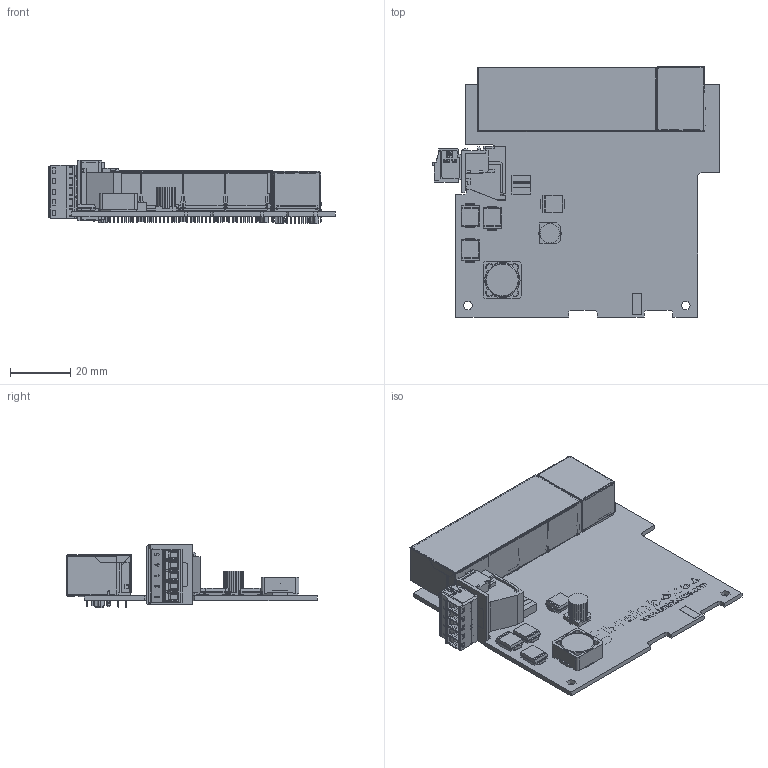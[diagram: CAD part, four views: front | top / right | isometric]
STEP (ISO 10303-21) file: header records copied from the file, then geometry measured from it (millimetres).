
FILE_DESCRIPTION(('STEP AP214'),'1');
FILE_NAME('SW-515 Uncased PCB 3D Step.step','2022-08-25T10:53:40',(' '),(' '),'Spatial InterOp 3D','XD3DPlugin XRACreate',' ');
FILE_SCHEMA(('automotive_design'));
Length unit declared in the file: millimetre
Products named in the file (32): Submodel-R:\Hardware\Product Design data\PCB Designs\Ethernet Switches\90SW515R3c\PCB\Released\3D Step\SW-515 Uncased PCB 3D Step_PCB\3D\Input_S\SRR5028.xtd; SRR5028; Submodel-6610UH1A5_part_simplified_SRR5028; DesignRootModel; Submodel-R:\Hardware\Product Design data\PCB Designs\Ethernet Switches\90SW515R3c\PCB\Released\3D Step\SW-515 Uncased PCB 3D Step_PCB\3D\Input_S\SMC.xtd; SMC; Submodel-55TZ1K5SMC36V_part_simplified_SMC; Submodel-R:\Hardware\Product Design data\PCB Designs\Ethernet Switches\90SW515R3c\PCB\Released\3D Step\SW-515 Uncased PCB 3D Step_PCB\3D\Input_S\00MAGJACK1X4GIG.xtd; 00MAGJACK1X4GIG; Submodel-00MAGJACK1X4GIG_part_simplified_MAGJACK1X4G; Submodel-R:\Hardware\Product Design data\PCB Designs\Ethernet Switches\90SW515R3c\PCB\Released\3D Step\SW-515 Uncased PCB 3D Step_PCB\3D\Input_S\00MAGJACK1X1GIG.xtd; 00MAGJACK1X1GIG; Submodel-00MAGJACK1X1GIG_part_simplified_MAGJACK1X1G; Submodel-R:\Hardware\Product Design data\PCB Designs\Ethernet Switches\90SW515R3c\PCB\Released\3D Step\SW-515 Uncased PCB 3D Step_PCB\3D\Input_S\SMD_ELEC_D.xtd; SMD_ELEC_D; Submodel-7547UF50V_part_simplified_SMD_ELEC_D; Submodel-R:\Hardware\Product Design data\PCB Designs\Ethernet Switches\90SW515R3c\PCB\Released\3D Step\SW-515 Uncased PCB 3D Step_PCB\3D\Input_S\82HEA3MM5TBX5_L_BLACK.xtd; 82HEA3MM5TBX5_L_BLACK; Submodel-82HEA3MM5TBX5_L_BLACK_part_simplified_TBX5_LEFT; Submodel-R:\Hardware\Product Design data\PCB Designs\Ethernet Switches\90SW515R3c\PCB\Released\3D Step\SW-515 Uncased PCB 3D Step_PCB\3D\Input_S\6610UH5A5.xtd; 6610UH5A5; Submodel-6610UH5A5_part_simplified_SRR1260; uid__9223372036858785260; Submodel-AssyDefn_4; BrainboxesLogo.sat; Submodel-AssyDefn_3; 82PLUG3MM5_X5_1_5_BLCK.sat; Submodel-noModelForPart_CHASSISPINS_1505797551; placementOutline; Submodel-CHASSISPINS_1505797551_part_CHASSISPINS; SW-515 Uncased PCB 3D Step; SW-515 Uncased PCB 3D Step_Copper
Assembly tree (34 placements, depth 5):
  SW-515 Uncased PCB 3D Step
    DesignRootModel
      Submodel-6610UH1A5_part_simplified_SRR5028
        Submodel-R:\Hardware\Product Design data\PCB Designs\Ethernet Switches\90SW515R3c\PCB\Released\3D Step\SW-515 Uncased PCB 3D Step_PCB\3D\Input_S\SRR5028.xtd
          SRR5028
      Submodel-55TZ1K5SMC36V_part_simplified_SMC  x4
        Submodel-R:\Hardware\Product Design data\PCB Designs\Ethernet Switches\90SW515R3c\PCB\Released\3D Step\SW-515 Uncased PCB 3D Step_PCB\3D\Input_S\SMC.xtd
          SMC
      Submodel-00MAGJACK1X4GIG_part_simplified_MAGJACK1X4G
        Submodel-R:\Hardware\Product Design data\PCB Designs\Ethernet Switches\90SW515R3c\PCB\Released\3D Step\SW-515 Uncased PCB 3D Step_PCB\3D\Input_S\00MAGJACK1X4GIG.xtd
          00MAGJACK1X4GIG
      Submodel-00MAGJACK1X1GIG_part_simplified_MAGJACK1X1G
        Submodel-R:\Hardware\Product Design data\PCB Designs\Ethernet Switches\90SW515R3c\PCB\Released\3D Step\SW-515 Uncased PCB 3D Step_PCB\3D\Input_S\00MAGJACK1X1GIG.xtd
          00MAGJACK1X1GIG
      Submodel-7547UF50V_part_simplified_SMD_ELEC_D
        Submodel-R:\Hardware\Product Design data\PCB Designs\Ethernet Switches\90SW515R3c\PCB\Released\3D Step\SW-515 Uncased PCB 3D Step_PCB\3D\Input_S\SMD_ELEC_D.xtd
          SMD_ELEC_D
      Submodel-82HEA3MM5TBX5_L_BLACK_part_simplified_TBX5_LEFT
        Submodel-R:\Hardware\Product Design data\PCB Designs\Ethernet Switches\90SW515R3c\PCB\Released\3D Step\SW-515 Uncased PCB 3D Step_PCB\3D\Input_S\82HEA3MM5TBX5_L_BLACK.xtd
          82HEA3MM5TBX5_L_BLACK
      Submodel-6610UH5A5_part_simplified_SRR1260
        Submodel-R:\Hardware\Product Design data\PCB Designs\Ethernet Switches\90SW515R3c\PCB\Released\3D Step\SW-515 Uncased PCB 3D Step_PCB\3D\Input_S\6610UH5A5.xtd
          6610UH5A5
      uid__9223372036858785260
      Submodel-AssyDefn_4
        BrainboxesLogo.sat
      Submodel-AssyDefn_3
        82PLUG3MM5_X5_1_5_BLCK.sat
      Submodel-CHASSISPINS_1505797551_part_CHASSISPINS
        Submodel-noModelForPart_CHASSISPINS_1505797551
          placementOutline
    SW-515 Uncased PCB 3D Step_Copper
Bounding box: 94.93 x 82.82 x 20.85 mm (x, y, z)
Volume: 26023.3 mm3; surface area: 49167.9 mm2
Topology: 73 solids, 93 shells, 8846 faces, 25829 edges, 16791 vertices
Faces by surface type: plane 7323, cylinder 1141, bspline 299, torus 37, cone 34, sphere 12
Entity records: 380228 total; most frequent: CARTESIAN_POINT 60080, ORIENTED_EDGE 53344, DIRECTION 48134, EDGE_CURVE 26672, LINE 22732, VECTOR 22732, VERTEX_POINT 17377, AXIS2_PLACEMENT_3D 12701
